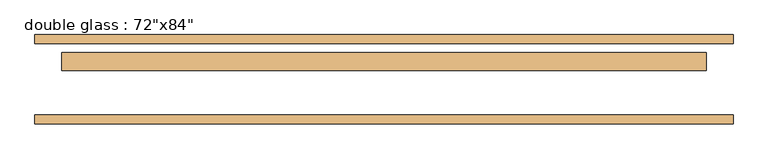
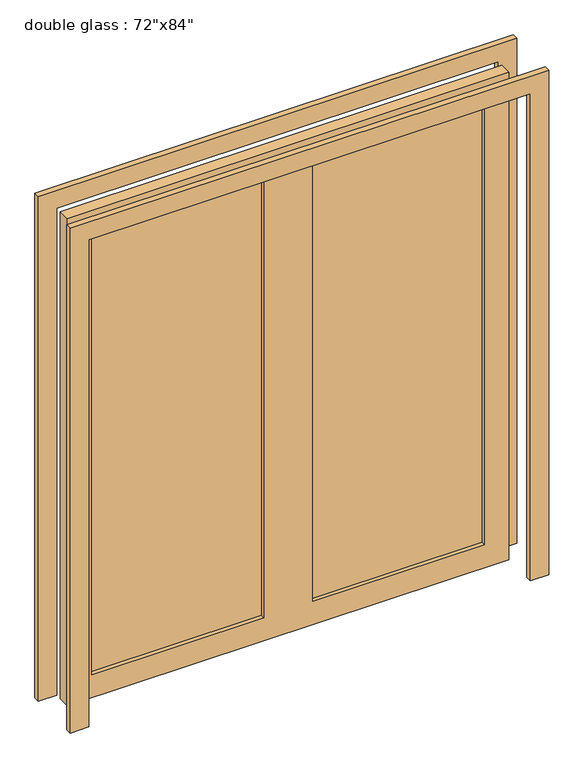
"""IFC4 building model written with IfcOpenShell, lengths in millimetres: door geometry."""

from ifc_helpers import new_model, si_unit, frame, origin, place, context, project, spatial, polyline, outline, extrude, source, transform, mapped, element, save


def door_09933694(model_context):
    return source(origin(), model_context, "Body", "SweptSolid", [
        extrude(outline(polyline([(0.0, 990.6), (2209.8, 990.6), (2209.8, -990.6), (0.0, -990.6), (0.0, -914.4), (2133.6, -914.4), (2133.6, 914.4), (0.0, 914.4), (0.0, 990.6)])), frame((0.0, -127.0, 0.0), z_axis=(0.0, 1.0, 0.0), x_axis=(0.0, 0.0, 1.0)), (0.0, 0.0, 1.0), 25.4),
        extrude(outline(polyline([(2133.6, 914.4), (0.0, 914.4), (0.0, 990.6), (2209.8, 990.6), (2209.8, -990.6), (0.0, -990.6), (0.0, -914.4), (2133.6, -914.4), (2133.6, 914.4)])), frame((0.0, 101.6, 0.0), z_axis=(0.0, 1.0, 0.0), x_axis=(0.0, 0.0, 1.0)), (0.0, 0.0, 1.0), 25.4),
        extrude(outline(polyline([(812.8, 42.8802689), (101.6, 42.8802689), (101.6, 57.7421814), (812.8, 57.7421814), (812.8, 42.8802689)])), frame((0.0, 0.0, 101.6), z_axis=(0.0, 0.0, 1.0), x_axis=(1.0, 0.0, 0.0)), (0.0, 0.0, 1.0), 1930.4),
        extrude(outline(polyline([(-101.6, 42.8802689), (-812.8, 42.8802689), (-812.8, 57.7421814), (-101.6, 57.7421814), (-101.6, 42.8802689)])), frame((0.0, 0.0, 101.6), z_axis=(0.0, 0.0, 1.0), x_axis=(1.0, 0.0, 0.0)), (0.0, 0.0, 1.0), 1930.4),
        extrude(outline(polyline([(2133.6, 914.4), (2133.6, -914.4), (0.0, -914.4), (0.0, 914.4), (2133.6, 914.4)]), holes=[polyline([(2032.0, -101.6), (101.6, -101.6), (101.6, -812.8), (2032.0, -812.8), (2032.0, -101.6)]), polyline([(2032.0, 812.8), (101.6, 812.8), (101.6, 101.6), (2032.0, 101.6), (2032.0, 812.8)])]), frame((0.0, 25.4, 0.0), z_axis=(0.0, 1.0, 0.0), x_axis=(0.0, 0.0, 1.0)), (0.0, 0.0, 1.0), 50.8),
    ])


if __name__ == "__main__":
    model = new_model("IFC4")
    model_context = context("Model", 3, world=origin())
    ifc_project = project(units=[si_unit("LENGTHUNIT", "METRE", prefix="MILLI")], contexts=[model_context])
    site = spatial("IfcSite", under=ifc_project)
    building = spatial("IfcBuilding", under=site)
    placement = place(None, origin())
    door_shape = door_09933694(model_context)
    element("IfcDoor", 1, ObjectType="double glass : 72\"x84\"", at=placement, inside=building, context=model_context, shape_type="MappedRepresentation", body=[
        mapped(door_shape, transform((0.0, 0.0, 0.0), x_axis=(1.0, 0.0, 0.0), y_axis=(0.0, 1.0, 0.0), z_axis=(0.0, 0.0, 1.0))),
    ])
    save(model, "model.ifc")
